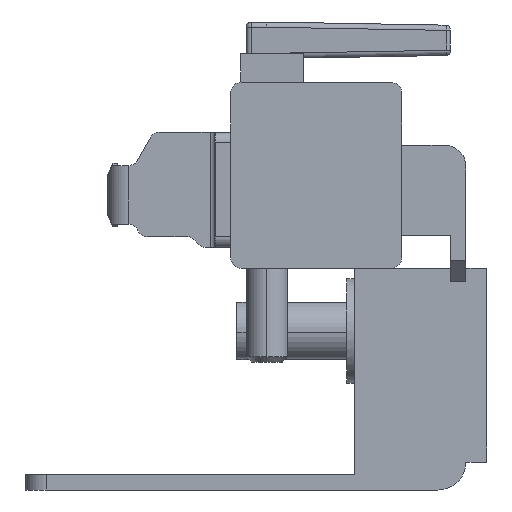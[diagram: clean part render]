
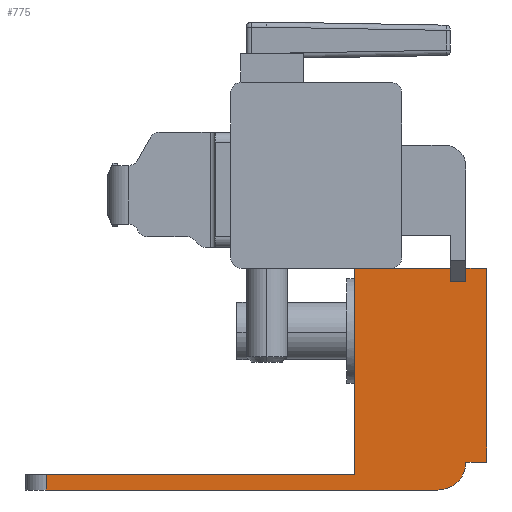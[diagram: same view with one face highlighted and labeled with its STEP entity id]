
A CAD part, left-side view. The second image highlights one B-rep face of the part: STEP entity #775.
In plain terms, the highlighted planar face has unit normal (-1, 0, 0).
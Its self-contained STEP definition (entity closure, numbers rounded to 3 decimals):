
#6 = ORIENTED_EDGE ( 'NONE', *, *, #4716, .F. ) ;
#115 = VECTOR ( 'NONE', #3969, 1000. ) ;
#175 = CARTESIAN_POINT ( 'NONE',  ( -193.1, 11.767, 19.549 ) ) ;
#198 = ORIENTED_EDGE ( 'NONE', *, *, #4743, .F. ) ;
#243 = CARTESIAN_POINT ( 'NONE',  ( -193.1, -17.713, 40.749 ) ) ;
#247 = EDGE_CURVE ( 'NONE', #1602, #4715, #5337, .T. ) ;
#264 = VECTOR ( 'NONE', #4033, 1000. ) ;
#340 = ORIENTED_EDGE ( 'NONE', *, *, #1508, .F. ) ;
#366 = VERTEX_POINT ( 'NONE', #938 ) ;
#464 = CARTESIAN_POINT ( 'NONE',  ( -193.1, -28.333, 22.219 ) ) ;
#475 = VECTOR ( 'NONE', #2024, 1000. ) ;
#547 = EDGE_CURVE ( 'NONE', #366, #4485, #1619, .T. ) ;
#591 = CARTESIAN_POINT ( 'NONE',  ( -193.1, -26.863, 39.459 ) ) ;
#603 = VECTOR ( 'NONE', #2891, 1000. ) ;
#617 = LINE ( 'NONE', #5492, #4990 ) ;
#669 = ORIENTED_EDGE ( 'NONE', *, *, #2488, .F. ) ;
#683 = VERTEX_POINT ( 'NONE', #175 ) ;
#694 = CARTESIAN_POINT ( 'NONE',  ( -193.1, -28.333, 40.749 ) ) ;
#712 = VECTOR ( 'NONE', #5391, 1000. ) ;
#767 = ORIENTED_EDGE ( 'NONE', *, *, #3686, .T. ) ;
#775 = ADVANCED_FACE ( 'NONE', ( #4934 ), #3509, .F. ) ;
#793 = ORIENTED_EDGE ( 'NONE', *, *, #3171, .T. ) ;
#802 = DIRECTION ( 'NONE',  ( 0., 0., 1. ) ) ;
#822 = CARTESIAN_POINT ( 'NONE',  ( -193.1, -17.713, 40.749 ) ) ;
#872 = ORIENTED_EDGE ( 'NONE', *, *, #547, .T. ) ;
#883 = VECTOR ( 'NONE', #5079, 1000. ) ;
#938 = CARTESIAN_POINT ( 'NONE',  ( -193.1, -30.333, 22.219 ) ) ;
#943 = CARTESIAN_POINT ( 'NONE',  ( -193.1, -25.663, 19.549 ) ) ;
#950 = ORIENTED_EDGE ( 'NONE', *, *, #1004, .T. ) ;
#1004 = EDGE_CURVE ( 'NONE', #4715, #2562, #617, .T. ) ;
#1007 = VERTEX_POINT ( 'NONE', #694 ) ;
#1134 = ORIENTED_EDGE ( 'NONE', *, *, #1467, .F. ) ;
#1245 = CARTESIAN_POINT ( 'NONE',  ( -193.1, 11.767, 21.019 ) ) ;
#1362 = DIRECTION ( 'NONE',  ( 0., 1., 0. ) ) ;
#1404 = LINE ( 'NONE', #243, #264 ) ;
#1467 = EDGE_CURVE ( 'NONE', #3342, #2562, #1608, .T. ) ;
#1508 = EDGE_CURVE ( 'NONE', #683, #5440, #4730, .T. ) ;
#1528 = VECTOR ( 'NONE', #5366, 1000. ) ;
#1576 = EDGE_CURVE ( 'NONE', #4485, #1007, #3782, .T. ) ;
#1602 = VERTEX_POINT ( 'NONE', #2811 ) ;
#1608 = LINE ( 'NONE', #822, #475 ) ;
#1619 = LINE ( 'NONE', #1981, #883 ) ;
#1723 = ORIENTED_EDGE ( 'NONE', *, *, #4850, .T. ) ;
#1727 = VERTEX_POINT ( 'NONE', #943 ) ;
#1981 = CARTESIAN_POINT ( 'NONE',  ( -193.1, -30.333, 22.219 ) ) ;
#2024 = DIRECTION ( 'NONE',  ( 0., -1., 0. ) ) ;
#2278 = CARTESIAN_POINT ( 'NONE',  ( -193.1, -17.713, 40.749 ) ) ;
#2357 = CARTESIAN_POINT ( 'NONE',  ( -193.1, -25.663, 22.219 ) ) ;
#2365 = CARTESIAN_POINT ( 'NONE',  ( -193.1, -26.863, 40.749 ) ) ;
#2449 = VERTEX_POINT ( 'NONE', #5196 ) ;
#2488 = EDGE_CURVE ( 'NONE', #2449, #3342, #5495, .T. ) ;
#2501 = CARTESIAN_POINT ( 'NONE',  ( -193.1, -26.863, 39.459 ) ) ;
#2519 = VERTEX_POINT ( 'NONE', #4486 ) ;
#2562 = VERTEX_POINT ( 'NONE', #2365 ) ;
#2570 = CIRCLE ( 'NONE', #2665, 2.67 ) ;
#2665 = AXIS2_PLACEMENT_3D ( 'NONE', #2357, #5338, #2793 ) ;
#2793 = DIRECTION ( 'NONE',  ( 0., 0., 1. ) ) ;
#2811 = CARTESIAN_POINT ( 'NONE',  ( -193.1, -28.333, 39.459 ) ) ;
#2891 = DIRECTION ( 'NONE',  ( 0., -1., 0. ) ) ;
#2962 = LINE ( 'NONE', #3648, #3376 ) ;
#3171 = EDGE_CURVE ( 'NONE', #1007, #1602, #5438, .T. ) ;
#3209 = VECTOR ( 'NONE', #5483, 1000. ) ;
#3342 = VERTEX_POINT ( 'NONE', #3945 ) ;
#3376 = VECTOR ( 'NONE', #4077, 1000. ) ;
#3509 = PLANE ( 'NONE',  #3642 ) ;
#3541 = EDGE_CURVE ( 'NONE', #2449, #2519, #1404, .T. ) ;
#3606 = VECTOR ( 'NONE', #5012, 1000. ) ;
#3642 = AXIS2_PLACEMENT_3D ( 'NONE', #4764, #4330, #1362 ) ;
#3648 = CARTESIAN_POINT ( 'NONE',  ( -193.1, -30.333, 22.219 ) ) ;
#3686 = EDGE_CURVE ( 'NONE', #683, #1727, #5108, .T. ) ;
#3782 = LINE ( 'NONE', #4946, #1528 ) ;
#3819 = ORIENTED_EDGE ( 'NONE', *, *, #247, .T. ) ;
#3844 = VERTEX_POINT ( 'NONE', #464 ) ;
#3945 = CARTESIAN_POINT ( 'NONE',  ( -193.1, -21.203, 40.749 ) ) ;
#3969 = DIRECTION ( 'NONE',  ( 0., -1., 0. ) ) ;
#4033 = DIRECTION ( 'NONE',  ( 0., 0., -1. ) ) ;
#4077 = DIRECTION ( 'NONE',  ( 0., 1., 0. ) ) ;
#4107 = CARTESIAN_POINT ( 'NONE',  ( -193.1, -29.063, 21.019 ) ) ;
#4330 = DIRECTION ( 'NONE',  ( 1., 0., 0. ) ) ;
#4485 = VERTEX_POINT ( 'NONE', #5510 ) ;
#4486 = CARTESIAN_POINT ( 'NONE',  ( -193.1, -17.713, 21.019 ) ) ;
#4558 = CARTESIAN_POINT ( 'NONE',  ( -193.1, -28.333, 40.749 ) ) ;
#4588 = CARTESIAN_POINT ( 'NONE',  ( -193.1, 14.667, 19.549 ) ) ;
#4591 = CARTESIAN_POINT ( 'NONE',  ( -193.1, 11.767, 21.319 ) ) ;
#4715 = VERTEX_POINT ( 'NONE', #591 ) ;
#4716 = EDGE_CURVE ( 'NONE', #3844, #1727, #2570, .T. ) ;
#4730 = LINE ( 'NONE', #4591, #3606 ) ;
#4740 = ORIENTED_EDGE ( 'NONE', *, *, #3541, .T. ) ;
#4743 = EDGE_CURVE ( 'NONE', #366, #3844, #2962, .T. ) ;
#4764 = CARTESIAN_POINT ( 'NONE',  ( -193.1, -29.063, 23.319 ) ) ;
#4850 = EDGE_CURVE ( 'NONE', #2519, #5440, #5234, .T. ) ;
#4934 = FACE_OUTER_BOUND ( 'NONE', #5442, .T. ) ;
#4946 = CARTESIAN_POINT ( 'NONE',  ( -193.1, -30.333, 40.749 ) ) ;
#4976 = DIRECTION ( 'NONE',  ( 0., 0., -1. ) ) ;
#4990 = VECTOR ( 'NONE', #802, 1000. ) ;
#5012 = DIRECTION ( 'NONE',  ( 0., 0., 1. ) ) ;
#5056 = ORIENTED_EDGE ( 'NONE', *, *, #1576, .T. ) ;
#5079 = DIRECTION ( 'NONE',  ( 0., 0., 1. ) ) ;
#5108 = LINE ( 'NONE', #4588, #603 ) ;
#5196 = CARTESIAN_POINT ( 'NONE',  ( -193.1, -17.713, 40.749 ) ) ;
#5234 = LINE ( 'NONE', #4107, #712 ) ;
#5310 = VECTOR ( 'NONE', #4976, 1000. ) ;
#5337 = LINE ( 'NONE', #2501, #3209 ) ;
#5338 = DIRECTION ( 'NONE',  ( 1., 0., 0. ) ) ;
#5366 = DIRECTION ( 'NONE',  ( 0., 1., 0. ) ) ;
#5391 = DIRECTION ( 'NONE',  ( 0., 1., 0. ) ) ;
#5438 = LINE ( 'NONE', #4558, #5310 ) ;
#5440 = VERTEX_POINT ( 'NONE', #1245 ) ;
#5442 = EDGE_LOOP ( 'NONE', ( #3819, #950, #1134, #669, #4740, #1723, #340, #767, #6, #198, #872, #5056, #793 ) ) ;
#5483 = DIRECTION ( 'NONE',  ( 0., 1., 0. ) ) ;
#5492 = CARTESIAN_POINT ( 'NONE',  ( -193.1, -26.863, 40.749 ) ) ;
#5495 = LINE ( 'NONE', #2278, #115 ) ;
#5510 = CARTESIAN_POINT ( 'NONE',  ( -193.1, -30.333, 40.749 ) ) ;
